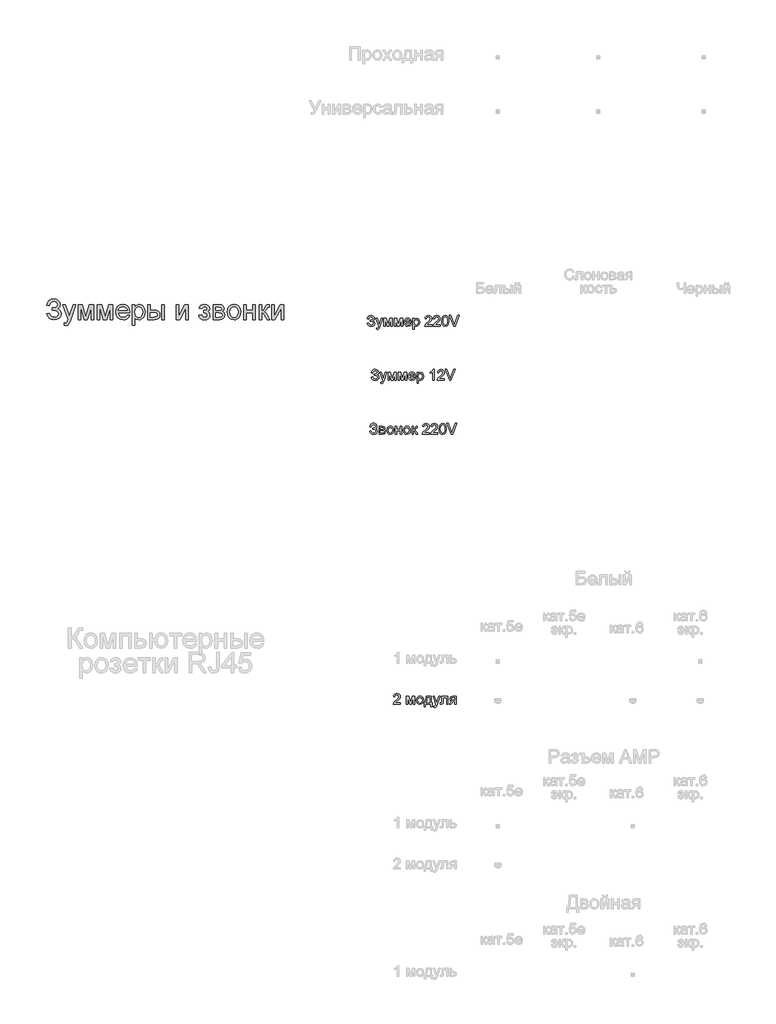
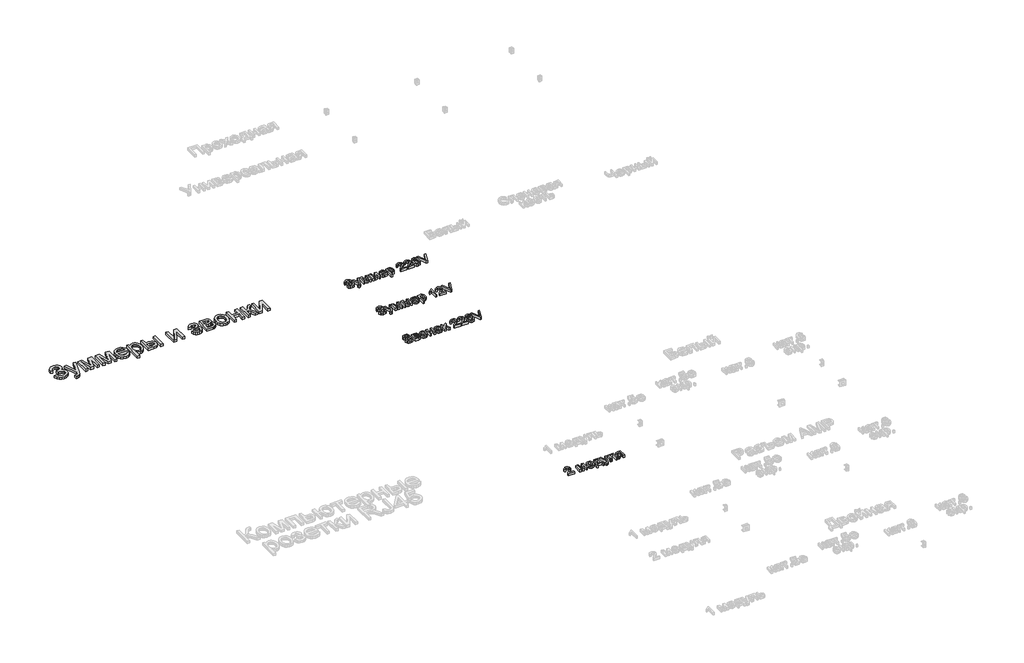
# One storey, part 8 of 47: 5 proxies.
"""IFC4 building model written with IfcOpenShell, lengths in millimetres."""

from ifc_helpers import new_model, si_unit, origin, origin_with_axes, place, context, project, spatial, polyline, outline, extrude, element, save

model = new_model("IFC4")

# Units and contexts
model_context = context("Model", 3, world=origin())
ifc_project = project(units=[si_unit("LENGTHUNIT", "METRE", prefix="MILLI")], contexts=[model_context])

# Site, building, storey
site = spatial("IfcSite", under=ifc_project)
building = spatial("IfcBuilding", under=site)
storey = spatial("IfcBuildingStorey", under=building, Name="Этаж 01", Elevation=0.0)

# Proxies
placement = place(None, origin())
element("IfcBuildingElementProxy", 1, Name="150 мм Arial", ObjectType="150 мм Arial", at=placement, inside=storey, context=model_context, shape_type="SweptSolid", body=[
    extrude(outline(polyline([(-3338.7514384, -17742.1540132), (-3319.9158802, -17737.4451237), (-3308.3459915, -17757.8441803), (-3297.4152977, -17765.5007243), (-3283.4219863, -17768.0529057), (-3269.2447339, -17766.1353208), (-3258.4244047, -17760.3825661), (-3251.5680041, -17751.9166817), (-3249.2825372, -17741.8597076), (-3251.7795362, -17731.324487), (-3259.2705333, -17723.1896964), (-3271.0657498, -17717.9887647), (-3286.4754069, -17716.2551208), (-3296.3714325, -17716.2551208), (-3296.3714325, -17697.4195626), (-3275.0526709, -17695.8928523), (-3262.0112542, -17688.093754), (-3256.3458715, -17673.8383267), (-3258.2312667, -17664.9677721), (-3263.8874524, -17657.3388192), (-3272.7626055, -17652.0827052), (-3284.3049031, -17650.3306672), (-3303.5267374, -17655.7201385), (-3314.526409, -17670.012354), (-3317.5614355, -17683.292894), (-3336.3969936, -17678.5840045), (-3330.5453706, -17657.9826127), (-3319.9434714, -17643.2673329), (-3304.5912959, -17634.438165), (-3284.4888441, -17631.4951091), (-3265.0968644, -17634.5531282), (-3250.1838481, -17643.7271854), (-3240.678697, -17656.9939299), (-3237.5103133, -17672.3300105), (-3242.4399321, -17690.9724306), (-3257.2287883, -17704.8875671), (-3246.7533484, -17709.7114198), (-3238.1357127, -17717.8554074), (-3232.3691624, -17728.6205543), (-3230.446979, -17741.3078846), (-3234.134996, -17759.1455629), (-3245.199047, -17773.8102589), (-3262.351545, -17783.6189126), (-3284.3049031, -17786.8884638), (-3303.4071757, -17784.0925607), (-3318.8490225, -17775.7048512), (-3330.6304433, -17761.7253354), (-3338.7514384, -17742.1540132)])), origin_with_axes(), (0.0, 0.0, 1.0), 20.0),
    extrude(outline(polyline([(-3206.9025313, -17826.9140249), (-3209.2569761, -17808.7774426), (-3199.6920442, -17810.4329115), (-3190.7525117, -17808.3543783), (-3185.27107, -17802.5602368), (-3180.1207221, -17788.6910856), (-3178.6491941, -17784.1293489), (-3218.6747552, -17673.8751149), (-3198.8091274, -17673.8751149), (-3177.5823363, -17735.3114081), (-3170.1879082, -17759.8859254), (-3162.7934801, -17738.1808877), (-3140.9780778, -17673.8751149), (-3121.2596028, -17673.8751149), (-3159.7768477, -17787.1827694), (-3169.783238, -17811.7572867), (-3180.7093333, -17825.0378267), (-3195.3878249, -17829.2684697), (-3206.9025313, -17826.9140249)])), origin_with_axes(), (0.0, 0.0, 1.0), 20.0),
    extrude(outline(polyline([(-3105.6614062, -17673.8751149), (-3073.2510025, -17673.8751149), (-3048.271815, -17762.4610994), (-3021.342853, -17673.8751149), (-2990.2936126, -17673.8751149), (-2990.2936126, -17784.5340191), (-3009.1291707, -17784.5340191), (-3009.1291707, -17695.4329998), (-3036.2052856, -17784.5340191), (-3060.9269556, -17784.5340191), (-3086.8258481, -17691.1655687), (-3086.8258481, -17784.5340191), (-3105.6614062, -17784.5340191), (-3105.6614062, -17673.8751149)])), origin_with_axes(), (0.0, 0.0, 1.0), 20.0),
    extrude(outline(polyline([(-2962.0402753, -17673.8751149), (-2929.6298716, -17673.8751149), (-2904.6506841, -17762.4610994), (-2877.721722, -17673.8751149), (-2846.6724816, -17673.8751149), (-2846.6724816, -17784.5340191), (-2865.5080398, -17784.5340191), (-2865.5080398, -17695.4329998), (-2892.5841546, -17784.5340191), (-2917.3058247, -17784.5340191), (-2943.2047172, -17691.1655687), (-2943.2047172, -17784.5340191), (-2962.0402753, -17784.5340191), (-2962.0402753, -17673.8751149)])), origin_with_axes(), (0.0, 0.0, 1.0), 20.0),
    extrude(outline(polyline([(-2740.9431962, -17751.5717923), (-2722.4755201, -17753.9262371), (-2729.1295857, -17767.8413735), (-2739.7475797, -17778.243237), (-2754.090379, -17784.7271571), (-2771.9188602, -17786.8884638), (-2794.0193711, -17783.1590601), (-2811.0247163, -17771.9708489), (-2821.8680381, -17754.0503972), (-2825.4824787, -17730.124272), (-2821.8312499, -17705.3934049), (-2810.8775635, -17686.8981375), (-2794.1021445, -17675.365037), (-2772.985718, -17671.5206701), (-2752.5268806, -17675.3558399), (-2736.1791244, -17686.8613493), (-2725.4599628, -17705.3198285), (-2721.8869089, -17730.0139074), (-2721.9972735, -17735.0906789), (-2806.6469206, -17735.0906789), (-2803.3865664, -17749.1897564), (-2795.8127958, -17759.5548316), (-2784.882102, -17765.9283872), (-2771.5509782, -17768.0529057), (-2753.0833021, -17764.1165683), (-2740.9431962, -17751.5717923)]), holes=[polyline([(-2806.6469206, -17716.2551208), (-2740.722467, -17716.2551208), (-2743.2700498, -17706.3039128), (-2748.2640479, -17699.1853962), (-2759.2453255, -17692.5635203), (-2773.0592944, -17690.3562283), (-2785.7558218, -17692.1174634), (-2796.2542542, -17697.4011685), (-2803.5521133, -17705.6371267), (-2806.6469206, -17716.2551208)])]), origin_with_axes(), (0.0, 0.0, 1.0), 20.0),
    extrude(outline(polyline([(-2703.0513507, -17826.9140249), (-2703.0513507, -17673.8751149), (-2684.2157926, -17673.8751149), (-2684.2157926, -17692.3427911), (-2671.1927699, -17676.7262004), (-2653.6080106, -17671.5206701), (-2640.8700965, -17673.341686), (-2629.7324691, -17678.8047337), (-2620.6641779, -17687.5787192), (-2614.1342725, -17699.332549), (-2608.87356, -17728.3584384), (-2610.3588835, -17744.4670713), (-2614.8148542, -17758.8742499), (-2622.0989177, -17770.8488088), (-2632.0685198, -17779.6595826), (-2643.6797952, -17785.0812435), (-2655.8888789, -17786.8884638), (-2672.2780218, -17782.0508156), (-2684.2157926, -17769.8187393), (-2684.2157926, -17826.9140249), (-2703.0513507, -17826.9140249)]), holes=[polyline([(-2684.2157926, -17730.0874838), (-2682.178646, -17746.9732674), (-2676.0672064, -17758.7822794), (-2667.049499, -17765.7352491), (-2656.2935491, -17768.0529057), (-2645.3628554, -17765.6524757), (-2636.1152217, -17758.4511856), (-2629.810644, -17746.2099122), (-2627.7091181, -17728.6895322), (-2629.7600602, -17711.8957191), (-2635.9128866, -17699.9211602), (-2644.9167984, -17692.7474613), (-2655.5209969, -17690.3562283), (-2666.1665822, -17692.8992126), (-2675.5153834, -17700.5281655), (-2682.0406903, -17713.0039636), (-2684.2157926, -17730.0874838)])]), origin_with_axes(), (0.0, 0.0, 1.0), 20.0),
    extrude(outline(polyline([(-2484.0879872, -17673.8751149), (-2465.252429, -17673.8751149), (-2465.252429, -17784.5340191), (-2484.0879872, -17784.5340191), (-2484.0879872, -17673.8751149)])), origin_with_axes(), (0.0, 0.0, 1.0), 20.0),
    extrude(outline(polyline([(-2587.683557, -17673.8751149), (-2568.8479989, -17673.8751149), (-2568.8479989, -17713.900676), (-2545.5610686, -17713.900676), (-2525.4333249, -17716.2597193), (-2510.5203085, -17723.3368492), (-2501.291069, -17734.5618485), (-2498.2146558, -17749.3645003), (-2500.7944283, -17762.8427769), (-2508.5337458, -17774.2149291), (-2521.938446, -17781.9542466), (-2541.5143666, -17784.5340191), (-2587.683557, -17784.5340191), (-2587.683557, -17673.8751149)]), holes=[polyline([(-2568.8479989, -17765.6984609), (-2549.4974059, -17765.6984609), (-2524.5182185, -17761.7437295), (-2518.9172151, -17756.6807535), (-2517.050214, -17749.4012885), (-2522.586838, -17737.8130057), (-2531.4665896, -17734.005427), (-2547.0325966, -17732.7362341), (-2568.8479989, -17732.7362341), (-2568.8479989, -17765.6984609)])]), origin_with_axes(), (0.0, 0.0, 1.0), 20.0),
    extrude(outline(polyline([(-2378.1379726, -17673.8751149), (-2359.3024144, -17673.8751149), (-2359.3024144, -17758.2672446), (-2313.0228594, -17673.8751149), (-2288.6690714, -17673.8751149), (-2288.6690714, -17784.5340191), (-2307.5046295, -17784.5340191), (-2307.5046295, -17700.6569242), (-2353.4898789, -17784.5340191), (-2378.1379726, -17784.5340191), (-2378.1379726, -17673.8751149)])), origin_with_axes(), (0.0, 0.0, 1.0), 20.0),
    extrude(outline(polyline([(-2175.6557224, -17735.0906789), (-2175.6557224, -17716.2551208), (-2160.7932898, -17715.5193568), (-2153.2884971, -17711.6014135), (-2149.75683, -17703.4160391), (-2154.4841136, -17693.9062896), (-2166.6794018, -17690.3562283), (-2179.2793601, -17693.8878955), (-2187.4279463, -17704.4828969), (-2208.6179492, -17702.1284521), (-2202.9985517, -17688.7375475), (-2194.4544924, -17679.1726156), (-2182.9857712, -17673.4336565), (-2168.5923881, -17671.5206701), (-2152.8470387, -17673.8521223), (-2140.9276621, -17680.8464787), (-2133.4228694, -17691.0781967), (-2130.9212718, -17703.1217335), (-2134.4805301, -17714.820381), (-2145.158305, -17723.8702781), (-2132.7054995, -17735.6057137), (-2128.5668271, -17752.4914973), (-2131.1925848, -17766.35605), (-2139.069858, -17777.3419261), (-2151.6652178, -17784.5018294), (-2168.4452353, -17786.8884638), (-2184.8573708, -17784.6811719), (-2197.4159425, -17778.059296), (-2206.1209502, -17767.0228361), (-2210.972394, -17751.5717923), (-2189.7823911, -17749.2173475), (-2181.284317, -17763.1232869), (-2166.6426136, -17768.0529057), (-2152.8838269, -17763.325622), (-2147.4023852, -17751.2406985), (-2150.8052937, -17741.3446728), (-2158.052569, -17736.0471721), (-2171.9769025, -17734.9803143), (-2175.6557224, -17735.0906789)])), origin_with_axes(), (0.0, 0.0, 1.0), 20.0),
    extrude(outline(polyline([(-2105.0223794, -17673.8751149), (-2063.5252903, -17673.8751149), (-2040.7717889, -17676.3951066), (-2027.9694955, -17685.6289447), (-2022.6168124, -17701.723782), (-2025.854174, -17714.8019869), (-2035.6030469, -17724.1277955), (-2022.9479062, -17734.3365208), (-2017.9079229, -17752.0868271), (-2021.0992992, -17766.443422), (-2028.6868654, -17776.5509798), (-2040.6982125, -17782.5382592), (-2057.1609318, -17784.5340191), (-2105.0223794, -17784.5340191), (-2105.0223794, -17673.8751149)]), holes=[polyline([(-2086.1868212, -17716.2551208), (-2067.5719923, -17716.2551208), (-2052.212919, -17715.2986276), (-2044.7449145, -17711.4726548), (-2041.4523706, -17704.5564733), (-2042.8963074, -17698.9370758), (-2047.2281179, -17695.3226352), (-2066.9833811, -17692.7106731), (-2086.1868212, -17692.7106731), (-2086.1868212, -17716.2551208)]), polyline([(-2086.1868212, -17765.6984609), (-2063.0838319, -17765.6984609), (-2042.5928048, -17762.2955525), (-2038.3529648, -17757.6556408), (-2036.7434811, -17750.5417227), (-2039.9624485, -17741.4734315), (-2048.350158, -17736.1943249), (-2064.9232419, -17735.0906789), (-2086.1868212, -17735.0906789), (-2086.1868212, -17765.6984609)])]), origin_with_axes(), (0.0, 0.0, 1.0), 20.0),
    extrude(outline(polyline([(-1999.0723648, -17729.204567), (-1994.9980717, -17702.5239253), (-1982.7751924, -17683.7711406), (-1967.6736365, -17674.5832878), (-1949.5922364, -17671.5206701), (-1929.8047836, -17675.2500739), (-1913.9996534, -17686.4382851), (-1903.6391767, -17704.2023869), (-1900.1856845, -17727.6594626), (-1901.7123947, -17746.6881588), (-1906.2925256, -17761.1735124), (-1913.7927197, -17772.0214327), (-1924.07962, -17780.1378292), (-1936.2979008, -17785.2008052), (-1949.5922364, -17786.8884638), (-1969.6188125, -17783.1728557), (-1985.4055486, -17772.0260312), (-1995.6556607, -17753.8894489), (-1999.0723648, -17729.204567)]), holes=[polyline([(-1980.2368066, -17729.1677788), (-1978.0571058, -17746.2145107), (-1971.5180033, -17758.3592151), (-1961.6771599, -17765.629483), (-1949.5922364, -17768.0529057), (-1937.5624952, -17765.6156875), (-1927.7400459, -17758.3040328), (-1921.2009434, -17745.9983801), (-1919.0212426, -17728.5791676), (-1921.214739, -17712.0290763), (-1927.7952282, -17700.0499189), (-1937.631473, -17692.7796509), (-1949.5922364, -17690.3562283), (-1961.6771599, -17692.7704539), (-1971.5180033, -17700.0131307), (-1978.0571058, -17712.1302439), (-1980.2368066, -17729.1677788)])]), origin_with_axes(), (0.0, 0.0, 1.0), 20.0),
    extrude(outline(polyline([(-1878.9956815, -17673.8751149), (-1860.1601234, -17673.8751149), (-1860.1601234, -17716.2551208), (-1810.7167832, -17716.2551208), (-1810.7167832, -17673.8751149), (-1791.8812251, -17673.8751149), (-1791.8812251, -17784.5340191), (-1810.7167832, -17784.5340191), (-1810.7167832, -17735.0906789), (-1860.1601234, -17735.0906789), (-1860.1601234, -17784.5340191), (-1878.9956815, -17784.5340191), (-1878.9956815, -17673.8751149)])), origin_with_axes(), (0.0, 0.0, 1.0), 20.0),
    extrude(outline(polyline([(-1763.6278878, -17673.8751149), (-1744.7923297, -17673.8751149), (-1744.7923297, -17720.9640103), (-1732.1739773, -17717.5794959), (-1721.8364932, -17697.861021), (-1713.2464486, -17680.8464787), (-1705.6680795, -17675.3098547), (-1691.8908988, -17673.8751149), (-1688.2856552, -17673.8751149), (-1688.2856552, -17692.8210377), (-1693.3624268, -17692.7106731), (-1702.5594766, -17694.6972358), (-1709.0341998, -17707.0948591), (-1716.630963, -17720.5041578), (-1727.2811467, -17727.0708514), (-1715.3985583, -17734.4009002), (-1703.736699, -17749.8427469), (-1683.5767657, -17784.5340191), (-1704.9874978, -17784.5340191), (-1724.742761, -17750.5785109), (-1734.6755748, -17736.212719), (-1744.7923297, -17732.7362341), (-1744.7923297, -17784.5340191), (-1763.6278878, -17784.5340191), (-1763.6278878, -17673.8751149)])), origin_with_axes(), (0.0, 0.0, 1.0), 20.0),
    extrude(outline(polyline([(-1671.8045418, -17673.8751149), (-1652.9689837, -17673.8751149), (-1652.9689837, -17758.2672446), (-1606.6894287, -17673.8751149), (-1582.3356406, -17673.8751149), (-1582.3356406, -17784.5340191), (-1601.1711988, -17784.5340191), (-1601.1711988, -17700.6569242), (-1647.1564482, -17784.5340191), (-1671.8045418, -17784.5340191), (-1671.8045418, -17673.8751149)])), origin_with_axes(), (0.0, 0.0, 1.0), 20.0),
])
element("IfcBuildingElementProxy", 2, Name="80 мм Arial", ObjectType="80 мм Arial", at=placement, inside=storey, context=model_context, shape_type="SweptSolid", body=[
    extrude(outline(polyline([(-963.7349481, -17811.9901741), (-953.6893171, -17809.4787664), (-947.5187098, -17820.3582632), (-934.225907, -17825.8029168), (-920.8938635, -17821.712069), (-916.0182008, -17811.8332111), (-921.3451321, -17801.8758718), (-935.854398, -17798.1774315), (-941.1322783, -17798.1774315), (-941.1322783, -17788.1318005), (-929.7622721, -17787.317555), (-922.8068499, -17783.1580359), (-919.7853124, -17775.5551413), (-923.8074889, -17766.755404), (-934.696796, -17763.0177229), (-944.9484409, -17765.8921076), (-950.8149325, -17773.5146225), (-952.4336132, -17780.5975772), (-962.4792442, -17778.0861694), (-959.3583787, -17767.0987605), (-953.7040324, -17759.2506113), (-945.5162054, -17754.5417218), (-934.7948978, -17752.9720919), (-924.4525087, -17754.6030354), (-916.4988999, -17759.495866), (-911.429486, -17766.571463), (-909.7396814, -17774.750706), (-912.3688114, -17784.6933301), (-920.2562014, -17792.1147362), (-910.0732278, -17799.0309177), (-905.9725698, -17811.5389055), (-907.9395122, -17821.0523339), (-913.8403394, -17828.8735052), (-922.9883383, -17834.1047871), (-934.696796, -17835.8485478), (-944.8846747, -17834.3573994), (-953.1203263, -17829.8839544), (-959.4037508, -17822.4282126), (-963.7349481, -17811.9901741)])), origin_with_axes(), (0.0, 0.0, 1.0), 20.0),
    extrude(outline(polyline([(-893.415531, -17857.1955137), (-894.6712349, -17847.5226698), (-889.5699379, -17848.4055866), (-884.8021872, -17847.2970355), (-881.8787516, -17844.2068267), (-879.1318994, -17836.8099461), (-878.3470845, -17834.3770198), (-899.6940504, -17775.5747617), (-889.0990489, -17775.5747617), (-877.7780937, -17808.3407847), (-873.8343987, -17821.4471939), (-869.8907037, -17809.8711738), (-858.2558225, -17775.5747617), (-847.7393025, -17775.5747617), (-868.2818331, -17836.0055108), (-873.6185746, -17849.11192), (-879.4458254, -17856.1948747), (-887.2743542, -17858.4512176), (-893.415531, -17857.1955137)])), origin_with_axes(), (0.0, 0.0, 1.0), 20.0),
    extrude(outline(polyline([(-839.4202643, -17775.5747617), (-822.1347156, -17775.5747617), (-808.8124823, -17822.8206201), (-794.4503692, -17775.5747617), (-777.8907743, -17775.5747617), (-777.8907743, -17834.5928439), (-787.9364054, -17834.5928439), (-787.9364054, -17787.0723003), (-802.3769999, -17834.5928439), (-815.5618907, -17834.5928439), (-829.3746333, -17784.796337), (-829.3746333, -17834.5928439), (-839.4202643, -17834.5928439), (-839.4202643, -17775.5747617)])), origin_with_axes(), (0.0, 0.0, 1.0), 20.0),
    extrude(outline(polyline([(-762.8223278, -17775.5747617), (-745.5367791, -17775.5747617), (-732.2145458, -17822.8206201), (-717.8524327, -17775.5747617), (-701.2928379, -17775.5747617), (-701.2928379, -17834.5928439), (-711.3384689, -17834.5928439), (-711.3384689, -17787.0723003), (-725.7790635, -17834.5928439), (-738.9639542, -17834.5928439), (-752.7766968, -17784.796337), (-752.7766968, -17834.5928439), (-762.8223278, -17834.5928439), (-762.8223278, -17775.5747617)])), origin_with_axes(), (0.0, 0.0, 1.0), 20.0),
    extrude(outline(polyline([(-644.9038856, -17817.0129896), (-635.0544584, -17818.2686935), (-644.2662235, -17831.2377601), (-661.4242398, -17835.8485478), (-673.2111789, -17833.8595325), (-682.2806963, -17827.8924865), (-688.0638013, -17818.3349123), (-689.991503, -17805.5743121), (-688.0441809, -17792.3845163), (-682.2022149, -17782.5203738), (-673.2553247, -17776.3693868), (-661.9932306, -17774.3190578), (-651.0818506, -17776.3644817), (-642.3630473, -17782.5007534), (-636.6461611, -17792.3452756), (-634.7405324, -17805.515451), (-634.7993935, -17808.2230625), (-679.9458719, -17808.2230625), (-674.1676721, -17821.2706106), (-661.228036, -17825.8029168), (-651.3786088, -17823.7035369), (-644.9038856, -17817.0129896)]), holes=[polyline([(-679.9458719, -17798.1774315), (-644.7861634, -17798.1774315), (-648.8083399, -17789.0735784), (-662.0324713, -17784.3646888), (-674.4031166, -17788.1219903), (-679.9458719, -17798.1774315)])]), origin_with_axes(), (0.0, 0.0, 1.0), 20.0),
    extrude(outline(polyline([(-624.6949014, -17857.1955137), (-624.6949014, -17775.5747617), (-614.6492704, -17775.5747617), (-614.6492704, -17785.424189), (-607.7036583, -17777.0953406), (-598.32512, -17774.3190578), (-585.5914978, -17778.2038917), (-577.2724596, -17789.1520599), (-574.4667463, -17804.6325342), (-577.6354365, -17820.9076337), (-586.8373915, -17831.9931445), (-599.5415831, -17835.8485478), (-608.2824593, -17833.2684687), (-614.6492704, -17826.7446947), (-614.6492704, -17857.1955137), (-624.6949014, -17857.1955137)]), holes=[polyline([(-614.6492704, -17805.5546918), (-610.3033577, -17820.8585828), (-599.7574072, -17825.8029168), (-588.9956326, -17820.6819994), (-584.5123773, -17804.8091176), (-588.8877205, -17789.4659858), (-599.3453794, -17784.3646888), (-610.0090521, -17789.789722), (-614.6492704, -17805.5546918)])]), origin_with_axes(), (0.0, 0.0, 1.0), 20.0),
    extrude(outline(polyline([(-482.8003633, -17824.5472129), (-482.8003633, -17834.5928439), (-535.5399261, -17834.5928439), (-534.4608056, -17827.6668522), (-528.3588696, -17817.0031794), (-515.7822104, -17805.358488), (-498.4378006, -17788.6223098), (-494.1016982, -17777.2424934), (-498.192546, -17768.0307282), (-508.8758391, -17764.2734268), (-520.0104008, -17767.9424366), (-524.2385912, -17778.0861694), (-534.2842222, -17776.8304656), (-531.8488434, -17767.1134758), (-526.5832258, -17760.0158058), (-518.7620546, -17755.6747983), (-508.660015, -17754.2277958), (-498.484399, -17755.8366664), (-490.6779431, -17760.6632782), (-485.7115361, -17767.8737653), (-484.0560672, -17776.6342618), (-485.8415211, -17786.159953), (-491.776684, -17796.0093803), (-506.1682276, -17809.773072), (-517.7246274, -17819.4361057), (-522.2569335, -17824.5472129), (-482.8003633, -17824.5472129)])), origin_with_axes(), (0.0, 0.0, 1.0), 20.0),
    extrude(outline(polyline([(-421.2708733, -17824.5472129), (-421.2708733, -17834.5928439), (-474.0104361, -17834.5928439), (-472.9313156, -17827.6668522), (-466.8293796, -17817.0031794), (-454.2527205, -17805.358488), (-436.9083107, -17788.6223098), (-432.5722082, -17777.2424934), (-436.663056, -17768.0307282), (-447.3463491, -17764.2734268), (-458.4809109, -17767.9424366), (-462.7091013, -17778.0861694), (-472.7547323, -17776.8304656), (-470.3193535, -17767.1134758), (-465.0537358, -17760.0158058), (-457.2325646, -17755.6747983), (-447.130525, -17754.2277958), (-436.954909, -17755.8366664), (-429.1484531, -17760.6632782), (-424.1820462, -17767.8737653), (-422.5265772, -17776.6342618), (-424.3120311, -17786.159953), (-430.247194, -17796.0093803), (-444.6387376, -17809.773072), (-456.1951374, -17819.4361057), (-460.7274436, -17824.5472129), (-421.2708733, -17824.5472129)])), origin_with_axes(), (0.0, 0.0, 1.0), 20.0),
    extrude(outline(polyline([(-411.2252423, -17795.0577922), (-408.2723762, -17771.9351825), (-399.5020694, -17758.603139), (-384.8554609, -17754.2277958), (-373.1224778, -17756.817685), (-365.0192637, -17764.283237), (-360.3103742, -17776.1731831), (-358.4856795, -17795.0577922), (-361.4091151, -17818.0823), (-370.1499913, -17831.443774), (-384.8554609, -17835.8485478), (-395.2934994, -17833.9355614), (-403.2201301, -17828.1966023), (-409.2239642, -17814.6045888), (-411.2252423, -17795.0577922)]), holes=[polyline([(-401.1796113, -17795.0381718), (-400.0023889, -17810.8399298), (-396.4707217, -17819.9854762), (-384.8554609, -17825.8029168), (-373.2402, -17819.9658558), (-369.7085329, -17810.8154043), (-368.5313105, -17795.0381718), (-369.6692921, -17779.5920331), (-373.083237, -17770.3753628), (-378.3316868, -17765.7989108), (-384.9731831, -17764.2734268), (-396.3137588, -17769.649409), (-399.9631482, -17779.4399752), (-401.1796113, -17795.0381718)])]), origin_with_axes(), (0.0, 0.0, 1.0), 20.0),
    extrude(outline(polyline([(-322.1879893, -17834.5928439), (-354.1691974, -17754.2277958), (-343.4172329, -17754.2277958), (-322.0114059, -17812.1275167), (-317.6753035, -17825.1750648), (-313.3980621, -17812.1275167), (-291.933374, -17754.2277958), (-281.1814096, -17754.2277958), (-311.8088119, -17834.5928439), (-322.1879893, -17834.5928439)])), origin_with_axes(), (0.0, 0.0, 1.0), 20.0),
])
element("IfcBuildingElementProxy", 3, Name="80 мм Arial", ObjectType="80 мм Arial", at=placement, inside=storey, context=model_context, shape_type="SweptSolid", body=[
    extrude(outline(polyline([(-932.9702031, -18211.9901741), (-922.9245721, -18209.4787664), (-916.7539648, -18220.3582632), (-903.461162, -18225.8029168), (-890.1291185, -18221.712069), (-885.2534558, -18211.8332111), (-890.5803871, -18201.8758718), (-905.089653, -18198.1774315), (-910.3675334, -18198.1774315), (-910.3675334, -18188.1318005), (-898.9975272, -18187.317555), (-892.0421049, -18183.1580359), (-889.0205674, -18175.5551413), (-893.0427439, -18166.755404), (-903.932051, -18163.0177229), (-914.1836959, -18165.8921076), (-920.0501875, -18173.5146225), (-921.6688682, -18180.5975772), (-931.7144993, -18178.0861694), (-928.5936337, -18167.0987605), (-922.9392874, -18159.2506113), (-914.7514605, -18154.5417218), (-904.0301529, -18152.9720919), (-893.6877637, -18154.6030354), (-885.734155, -18159.495866), (-880.6647411, -18166.571463), (-878.9749364, -18174.750706), (-881.6040664, -18184.6933301), (-889.4914564, -18192.1147362), (-879.3084828, -18199.0309177), (-875.2078248, -18211.5389055), (-877.1747672, -18221.0523339), (-883.0755944, -18228.8735052), (-892.2235934, -18234.1047871), (-903.932051, -18235.8485478), (-914.1199297, -18234.3573994), (-922.3555813, -18229.8839544), (-928.6390058, -18222.4282126), (-932.9702031, -18211.9901741)])), origin_with_axes(), (0.0, 0.0, 1.0), 20.0),
    extrude(outline(polyline([(-862.650786, -18257.1955137), (-863.9064899, -18247.5226698), (-858.8051929, -18248.4055866), (-854.0374423, -18247.2970355), (-851.1140067, -18244.2068267), (-848.3671544, -18236.8099461), (-847.5823395, -18234.3770198), (-868.9293054, -18175.5747617), (-858.334304, -18175.5747617), (-847.0133487, -18208.3407847), (-843.0696537, -18221.4471939), (-839.1259587, -18209.8711738), (-827.4910775, -18175.5747617), (-816.9745575, -18175.5747617), (-837.5170881, -18236.0055108), (-842.8538296, -18249.11192), (-848.6810804, -18256.1948747), (-856.5096093, -18258.4512176), (-862.650786, -18257.1955137)])), origin_with_axes(), (0.0, 0.0, 1.0), 20.0),
    extrude(outline(polyline([(-808.6555193, -18175.5747617), (-791.3699706, -18175.5747617), (-778.0477373, -18222.8206201), (-763.6856242, -18175.5747617), (-747.1260294, -18175.5747617), (-747.1260294, -18234.5928439), (-757.1716604, -18234.5928439), (-757.1716604, -18187.0723003), (-771.612255, -18234.5928439), (-784.7971457, -18234.5928439), (-798.6098883, -18184.796337), (-798.6098883, -18234.5928439), (-808.6555193, -18234.5928439), (-808.6555193, -18175.5747617)])), origin_with_axes(), (0.0, 0.0, 1.0), 20.0),
    extrude(outline(polyline([(-732.0575828, -18175.5747617), (-714.7720342, -18175.5747617), (-701.4498008, -18222.8206201), (-687.0876877, -18175.5747617), (-670.5280929, -18175.5747617), (-670.5280929, -18234.5928439), (-680.5737239, -18234.5928439), (-680.5737239, -18187.0723003), (-695.0143185, -18234.5928439), (-708.1992092, -18234.5928439), (-722.0119518, -18184.796337), (-722.0119518, -18234.5928439), (-732.0575828, -18234.5928439), (-732.0575828, -18175.5747617)])), origin_with_axes(), (0.0, 0.0, 1.0), 20.0),
    extrude(outline(polyline([(-614.1391407, -18217.0129896), (-604.2897134, -18218.2686935), (-613.5014785, -18231.2377601), (-630.6594948, -18235.8485478), (-642.4464339, -18233.8595325), (-651.5159514, -18227.8924865), (-657.2990563, -18218.3349123), (-659.226758, -18205.5743121), (-657.279436, -18192.3845163), (-651.4374699, -18182.5203738), (-642.4905797, -18176.3693868), (-631.2284856, -18174.3190578), (-620.3171056, -18176.3644817), (-611.5983023, -18182.5007534), (-605.8814161, -18192.3452756), (-603.9757874, -18205.515451), (-604.0346485, -18208.2230625), (-649.181127, -18208.2230625), (-643.4029271, -18221.2706106), (-630.4632911, -18225.8029168), (-620.6138638, -18223.7035369), (-614.1391407, -18217.0129896)]), holes=[polyline([(-649.181127, -18198.1774315), (-614.0214184, -18198.1774315), (-618.0435949, -18189.0735784), (-631.2677263, -18184.3646888), (-643.6383716, -18188.1219903), (-649.181127, -18198.1774315)])]), origin_with_axes(), (0.0, 0.0, 1.0), 20.0),
    extrude(outline(polyline([(-593.9301564, -18257.1955137), (-593.9301564, -18175.5747617), (-583.8845254, -18175.5747617), (-583.8845254, -18185.424189), (-576.9389133, -18177.0953406), (-567.560375, -18174.3190578), (-554.8267528, -18178.2038917), (-546.5077147, -18189.1520599), (-543.7020013, -18204.6325342), (-546.8706916, -18220.9076337), (-556.0726465, -18231.9931445), (-568.7768381, -18235.8485478), (-577.5177143, -18233.2684687), (-583.8845254, -18226.7446947), (-583.8845254, -18257.1955137), (-593.9301564, -18257.1955137)]), holes=[polyline([(-583.8845254, -18205.5546918), (-579.5386127, -18220.8585828), (-568.9926622, -18225.8029168), (-558.2308876, -18220.6819994), (-553.7476323, -18204.8091176), (-558.1229755, -18189.4659858), (-568.5806344, -18184.3646888), (-579.2443071, -18189.789722), (-583.8845254, -18205.5546918)])]), origin_with_axes(), (0.0, 0.0, 1.0), 20.0),
    extrude(outline(polyline([(-465.8483609, -18234.5928439), (-475.893992, -18234.5928439), (-475.893992, -18171.964613), (-485.4098729, -18178.7434519), (-495.985254, -18183.8153184), (-495.985254, -18174.3190578), (-481.260164, -18164.9208991), (-472.3230841, -18154.2277958), (-465.8483609, -18154.2277958), (-465.8483609, -18234.5928439)])), origin_with_axes(), (0.0, 0.0, 1.0), 20.0),
    extrude(outline(polyline([(-390.5061283, -18224.5472129), (-390.5061283, -18234.5928439), (-443.2456912, -18234.5928439), (-442.1665706, -18227.6668522), (-436.0646346, -18217.0031794), (-423.4879755, -18205.358488), (-406.1435657, -18188.6223098), (-401.8074632, -18177.2424934), (-405.898311, -18168.0307282), (-416.5816041, -18164.2734268), (-427.7161659, -18167.9424366), (-431.9443563, -18178.0861694), (-441.9899873, -18176.8304656), (-439.5546085, -18167.1134758), (-434.2889908, -18160.0158058), (-426.4678196, -18155.6747983), (-416.36578, -18154.2277958), (-406.1901641, -18155.8366664), (-398.3837081, -18160.6632782), (-393.4173012, -18167.8737653), (-391.7618322, -18176.6342618), (-393.5472862, -18186.159953), (-399.482449, -18196.0093803), (-413.8739927, -18209.773072), (-425.4303924, -18219.4361057), (-429.9626986, -18224.5472129), (-390.5061283, -18224.5472129)])), origin_with_axes(), (0.0, 0.0, 1.0), 20.0),
    extrude(outline(polyline([(-352.9527343, -18234.5928439), (-384.9339424, -18154.2277958), (-374.1819779, -18154.2277958), (-352.7761509, -18212.1275167), (-348.4400485, -18225.1750648), (-344.1628071, -18212.1275167), (-322.698119, -18154.2277958), (-311.9461545, -18154.2277958), (-342.5735569, -18234.5928439), (-352.9527343, -18234.5928439)])), origin_with_axes(), (0.0, 0.0, 1.0), 20.0),
])
element("IfcBuildingElementProxy", 4, Name="80 мм Arial", ObjectType="80 мм Arial", at=placement, inside=storey, context=model_context, shape_type="SweptSolid", body=[
    extrude(outline(polyline([(-944.89939, -18611.9901741), (-934.853759, -18609.4787664), (-928.6831516, -18620.3582632), (-915.3903489, -18625.8029168), (-902.0583054, -18621.712069), (-897.1826426, -18611.8332111), (-902.5095739, -18601.8758718), (-917.0188398, -18598.1774315), (-922.2967202, -18598.1774315), (-922.2967202, -18588.1318005), (-910.926714, -18587.317555), (-903.9712917, -18583.1580359), (-900.9497543, -18575.5551413), (-904.9719308, -18566.755404), (-915.8612378, -18563.0177229), (-926.1128827, -18565.8921076), (-931.9793743, -18573.5146225), (-933.5980551, -18580.5975772), (-943.6436861, -18578.0861694), (-940.5228205, -18567.0987605), (-934.8684742, -18559.2506113), (-926.6806473, -18554.5417218), (-915.9593397, -18552.9720919), (-905.6169505, -18554.6030354), (-897.6633418, -18559.495866), (-892.5939279, -18566.571463), (-890.9041233, -18574.750706), (-893.5332533, -18584.6933301), (-901.4206432, -18592.1147362), (-891.2376696, -18599.0309177), (-887.1370116, -18611.5389055), (-889.103954, -18621.0523339), (-895.0047812, -18628.8735052), (-904.1527802, -18634.1047871), (-915.8612378, -18635.8485478), (-926.0491165, -18634.3573994), (-934.2847681, -18629.8839544), (-940.5681926, -18622.4282126), (-944.89939, -18611.9901741)])), origin_with_axes(), (0.0, 0.0, 1.0), 20.0),
    extrude(outline(polyline([(-874.5799729, -18575.5747617), (-852.448192, -18575.5747617), (-840.3129913, -18576.9187573), (-833.4851015, -18581.8434709), (-830.6303372, -18590.4273841), (-832.35693, -18597.4024267), (-837.5563289, -18602.3761913), (-830.8069205, -18607.8208448), (-828.1189294, -18617.2876749), (-833.8676987, -18630.335223), (-849.0538675, -18634.5928439), (-874.5799729, -18634.5928439), (-874.5799729, -18575.5747617)]), holes=[polyline([(-864.5343418, -18598.1774315), (-854.6064331, -18598.1774315), (-846.4149273, -18597.6673018), (-842.4319916, -18595.626783), (-840.6759682, -18591.9381528), (-843.7563668, -18587.0134392), (-854.2925071, -18585.6203927), (-864.5343418, -18585.6203927), (-864.5343418, -18598.1774315)]), polyline([(-864.5343418, -18624.5472129), (-852.2127476, -18624.5472129), (-841.2841998, -18622.7323284), (-838.1645604, -18616.4636192), (-839.8813431, -18611.6271972), (-844.3547881, -18608.8116737), (-853.1937662, -18608.2230625), (-864.5343418, -18608.2230625), (-864.5343418, -18624.5472129)])]), origin_with_axes(), (0.0, 0.0, 1.0), 20.0),
    extrude(outline(polyline([(-818.0732984, -18605.0838028), (-815.9003421, -18590.8541272), (-809.3814731, -18580.8526421), (-801.32731, -18575.9524539), (-791.6838966, -18574.3190578), (-781.1305884, -18576.3080731), (-772.7011857, -18582.2751191), (-767.1755981, -18591.7493067), (-765.3337356, -18604.2597471), (-768.5907175, -18622.133907), (-778.0771679, -18632.2482093), (-791.6838966, -18635.8485478), (-802.3647372, -18633.8668901), (-810.7843298, -18627.9219171), (-816.2510563, -18618.2490731), (-818.0732984, -18605.0838028)]), holes=[polyline([(-808.0276674, -18605.0641824), (-803.377639, -18620.6329485), (-791.6838966, -18625.8029168), (-780.029395, -18620.6035179), (-775.3793666, -18604.7502565), (-780.0588256, -18589.5346571), (-791.6838966, -18584.3646888), (-803.377639, -18589.5150368), (-808.0276674, -18605.0641824)])]), origin_with_axes(), (0.0, 0.0, 1.0), 20.0),
    extrude(outline(polyline([(-754.0324007, -18575.5747617), (-743.9867697, -18575.5747617), (-743.9867697, -18598.1774315), (-717.6169883, -18598.1774315), (-717.6169883, -18575.5747617), (-707.5713572, -18575.5747617), (-707.5713572, -18634.5928439), (-717.6169883, -18634.5928439), (-717.6169883, -18608.2230625), (-743.9867697, -18608.2230625), (-743.9867697, -18634.5928439), (-754.0324007, -18634.5928439), (-754.0324007, -18575.5747617)])), origin_with_axes(), (0.0, 0.0, 1.0), 20.0),
    extrude(outline(polyline([(-695.0143185, -18605.0838028), (-692.8413622, -18590.8541272), (-686.3224932, -18580.8526421), (-678.2683301, -18575.9524539), (-668.6249167, -18574.3190578), (-658.0716085, -18576.3080731), (-649.6422057, -18582.2751191), (-644.1166182, -18591.7493067), (-642.2747556, -18604.2597471), (-645.5317376, -18622.133907), (-655.018188, -18632.2482093), (-668.6249167, -18635.8485478), (-679.3057573, -18633.8668901), (-687.7253499, -18627.9219171), (-693.1920763, -18618.2490731), (-695.0143185, -18605.0838028)]), holes=[polyline([(-684.9686875, -18605.0641824), (-680.318659, -18620.6329485), (-668.6249167, -18625.8029168), (-656.9704151, -18620.6035179), (-652.3203867, -18604.7502565), (-656.9998456, -18589.5346571), (-668.6249167, -18584.3646888), (-680.318659, -18589.5150368), (-684.9686875, -18605.0641824)])]), origin_with_axes(), (0.0, 0.0, 1.0), 20.0),
    extrude(outline(polyline([(-630.9734208, -18575.5747617), (-620.9277897, -18575.5747617), (-620.9277897, -18600.6888392), (-614.1980018, -18598.8837649), (-608.6846769, -18588.3672449), (-604.1033198, -18579.2928224), (-600.061523, -18576.3399562), (-592.7136933, -18575.5747617), (-590.7908967, -18575.5747617), (-590.7908967, -18585.6792538), (-593.4985082, -18585.6203927), (-598.4036014, -18586.6798929), (-601.8567871, -18593.2919586), (-605.9083941, -18600.4435846), (-611.5884922, -18603.9458212), (-605.2511116, -18607.8551805), (-599.0314534, -18616.0908321), (-588.2794889, -18634.5928439), (-599.6985461, -18634.5928439), (-610.2346864, -18616.4832396), (-615.5321871, -18608.8214839), (-620.9277897, -18606.9673586), (-620.9277897, -18634.5928439), (-630.9734208, -18634.5928439), (-630.9734208, -18575.5747617)])), origin_with_axes(), (0.0, 0.0, 1.0), 20.0),
    extrude(outline(polyline([(-501.6359214, -18624.5472129), (-501.6359214, -18634.5928439), (-554.3754843, -18634.5928439), (-553.2963637, -18627.6668522), (-547.1944277, -18617.0031794), (-534.6177686, -18605.358488), (-517.2733588, -18588.6223098), (-512.9372563, -18577.2424934), (-517.0281041, -18568.0307282), (-527.7113973, -18564.2734268), (-538.845959, -18567.9424366), (-543.0741494, -18578.0861694), (-553.1197804, -18576.8304656), (-550.6844016, -18567.1134758), (-545.418784, -18560.0158058), (-537.5976127, -18555.6747983), (-527.4955731, -18554.2277958), (-517.3199572, -18555.8366664), (-509.5135012, -18560.6632782), (-504.5470943, -18567.8737653), (-502.8916253, -18576.6342618), (-504.6770793, -18586.159953), (-510.6122421, -18596.0093803), (-525.0037858, -18609.773072), (-536.5601855, -18619.4361057), (-541.0924917, -18624.5472129), (-501.6359214, -18624.5472129)])), origin_with_axes(), (0.0, 0.0, 1.0), 20.0),
    extrude(outline(polyline([(-440.1064315, -18624.5472129), (-440.1064315, -18634.5928439), (-492.8459943, -18634.5928439), (-491.7668738, -18627.6668522), (-485.6649377, -18617.0031794), (-473.0882786, -18605.358488), (-455.7438688, -18588.6223098), (-451.4077664, -18577.2424934), (-455.4986141, -18568.0307282), (-466.1819073, -18564.2734268), (-477.316469, -18567.9424366), (-481.5446594, -18578.0861694), (-491.5902904, -18576.8304656), (-489.1549116, -18567.1134758), (-483.889294, -18560.0158058), (-476.0681228, -18555.6747983), (-465.9660832, -18554.2277958), (-455.7904672, -18555.8366664), (-447.9840113, -18560.6632782), (-443.0176043, -18567.8737653), (-441.3621353, -18576.6342618), (-443.1475893, -18586.159953), (-449.0827521, -18596.0093803), (-463.4742958, -18609.773072), (-475.0306955, -18619.4361057), (-479.5630017, -18624.5472129), (-440.1064315, -18624.5472129)])), origin_with_axes(), (0.0, 0.0, 1.0), 20.0),
    extrude(outline(polyline([(-430.0608005, -18595.0577922), (-427.1079343, -18571.9351825), (-418.3376275, -18558.603139), (-403.691019, -18554.2277958), (-391.9580359, -18556.817685), (-383.8548219, -18564.283237), (-379.1459323, -18576.1731831), (-377.3212376, -18595.0577922), (-380.2446732, -18618.0823), (-388.9855494, -18631.443774), (-403.691019, -18635.8485478), (-414.1290575, -18633.9355614), (-422.0556882, -18628.1966023), (-428.0595224, -18614.6045888), (-430.0608005, -18595.0577922)]), holes=[polyline([(-420.0151694, -18595.0381718), (-418.8379471, -18610.8399298), (-415.3062799, -18619.9854762), (-403.691019, -18625.8029168), (-392.0757582, -18619.9658558), (-388.544091, -18610.8154043), (-387.3668686, -18595.0381718), (-388.5048503, -18579.5920331), (-391.9187952, -18570.3753628), (-397.167245, -18565.7989108), (-403.8087413, -18564.2734268), (-415.1493169, -18569.649409), (-418.7987063, -18579.4399752), (-420.0151694, -18595.0381718)])]), origin_with_axes(), (0.0, 0.0, 1.0), 20.0),
    extrude(outline(polyline([(-341.0235474, -18634.5928439), (-373.0047555, -18554.2277958), (-362.2527911, -18554.2277958), (-340.8469641, -18612.1275167), (-336.5108616, -18625.1750648), (-332.2336203, -18612.1275167), (-310.7689321, -18554.2277958), (-300.0169677, -18554.2277958), (-330.6443701, -18634.5928439), (-341.0235474, -18634.5928439)])), origin_with_axes(), (0.0, 0.0, 1.0), 20.0),
])
element("IfcBuildingElementProxy", 5, Name="80 мм Arial", ObjectType="80 мм Arial", at=placement, inside=storey, context=model_context, shape_type="SweptSolid", body=[
    extrude(outline(polyline([(-716.3866477, -20625.1206602), (-716.3866477, -20635.1662912), (-769.1262105, -20635.1662912), (-768.04709, -20628.2402995), (-761.945154, -20617.5766267), (-749.3684948, -20605.9319353), (-732.024085, -20589.1957571), (-727.6879826, -20577.8159407), (-731.7788304, -20568.6041755), (-742.4621235, -20564.8468741), (-753.5966852, -20568.5158838), (-757.8248756, -20578.6596167), (-767.8705066, -20577.4039128), (-765.4351278, -20567.6869231), (-760.1695102, -20560.5892531), (-752.348339, -20556.2482456), (-742.2462994, -20554.801243), (-732.0706834, -20556.4101136), (-724.2642275, -20561.2367254), (-719.2978206, -20568.4472125), (-717.6423516, -20577.2077091), (-719.4278055, -20586.7334002), (-725.3629684, -20596.5828275), (-739.754512, -20610.3465192), (-751.3109118, -20620.009553), (-755.843218, -20625.1206602), (-716.3866477, -20625.1206602)])), origin_with_axes(), (0.0, 0.0, 1.0), 20.0),
    extrude(outline(polyline([(-672.437012, -20576.148209), (-655.1514633, -20576.148209), (-641.82923, -20623.3940673), (-627.4671169, -20576.148209), (-610.907522, -20576.148209), (-610.907522, -20635.1662912), (-620.9531531, -20635.1662912), (-620.9531531, -20587.6457476), (-635.3937476, -20635.1662912), (-648.5786383, -20635.1662912), (-662.391381, -20585.3697843), (-662.391381, -20635.1662912), (-672.437012, -20635.1662912), (-672.437012, -20576.148209)])), origin_with_axes(), (0.0, 0.0, 1.0), 20.0),
    extrude(outline(polyline([(-598.3504833, -20605.6572501), (-596.177527, -20591.4275745), (-589.658658, -20581.4260893), (-581.6044948, -20576.5259011), (-571.9610815, -20574.8925051), (-561.4077733, -20576.8815204), (-552.9783705, -20582.8485664), (-547.452783, -20592.322754), (-545.6109204, -20604.8331944), (-548.8679024, -20622.7073543), (-558.3543528, -20632.8216566), (-571.9610815, -20636.421995), (-582.6419221, -20634.4403374), (-591.0615147, -20628.4953643), (-596.5282411, -20618.8225204), (-598.3504833, -20605.6572501)]), holes=[polyline([(-588.3048523, -20605.6376297), (-583.6548238, -20621.2063957), (-571.9610815, -20626.376364), (-560.3065799, -20621.1769652), (-555.6565515, -20605.3237037), (-560.3360104, -20590.1081044), (-571.9610815, -20584.9381361), (-583.6548238, -20590.088484), (-588.3048523, -20605.6376297)])]), origin_with_axes(), (0.0, 0.0, 1.0), 20.0),
    extrude(outline(polyline([(-525.5196584, -20576.148209), (-487.8485421, -20576.148209), (-487.8485421, -20625.1206602), (-480.3143188, -20625.1206602), (-480.3143188, -20651.4904416), (-490.3599499, -20651.4904416), (-490.3599499, -20635.1662912), (-531.7981778, -20635.1662912), (-531.7981778, -20651.4904416), (-541.8438088, -20651.4904416), (-541.8438088, -20625.1206602), (-535.5652894, -20625.1206602), (-527.8054319, -20605.9613658), (-525.5196584, -20576.148209)]), holes=[polyline([(-516.7297313, -20586.19384), (-519.084176, -20609.0810052), (-524.2639545, -20625.1206602), (-497.8941731, -20625.1206602), (-497.8941731, -20586.19384), (-516.7297313, -20586.19384)])]), origin_with_axes(), (0.0, 0.0, 1.0), 20.0),
    extrude(outline(polyline([(-469.012984, -20657.768961), (-470.2686878, -20648.096117), (-465.1673908, -20648.9790338), (-460.3996402, -20647.8704827), (-457.4762046, -20644.780274), (-454.7293524, -20637.3833933), (-453.9445374, -20634.9504671), (-475.2915033, -20576.148209), (-464.6965019, -20576.148209), (-453.3755466, -20608.914232), (-449.4318516, -20622.0206412), (-445.4881566, -20610.4446211), (-433.8532754, -20576.148209), (-423.3367554, -20576.148209), (-443.879286, -20636.578958), (-449.2160275, -20649.6853672), (-455.0432783, -20656.7683219), (-462.8718072, -20659.0246648), (-469.012984, -20657.768961)])), origin_with_axes(), (0.0, 0.0, 1.0), 20.0),
    extrude(outline(polyline([(-409.9949017, -20576.148209), (-364.7895622, -20576.148209), (-364.7895622, -20635.1074301), (-374.8351932, -20635.1074301), (-374.8351932, -20586.19384), (-399.9492707, -20586.19384), (-399.9492707, -20614.3490753), (-400.6261736, -20627.3377623), (-404.3442343, -20632.8216566), (-413.1341614, -20635.1662912), (-421.2962366, -20634.6561615), (-421.2962366, -20625.1206602), (-416.8031712, -20625.1206602), (-412.2610548, -20624.5026184), (-410.4461703, -20622.5405811), (-409.9949017, -20613.7800845), (-409.9949017, -20576.148209)])), origin_with_axes(), (0.0, 0.0, 1.0), 20.0),
    extrude(outline(polyline([(-304.5157761, -20576.148209), (-304.5157761, -20635.1662912), (-314.5614071, -20635.1662912), (-314.5614071, -20612.5636214), (-320.0354912, -20612.5636214), (-327.491233, -20613.8389456), (-334.4957061, -20622.4130487), (-342.5008184, -20635.1662912), (-354.1160792, -20635.1662912), (-344.0312075, -20619.0383445), (-335.4767248, -20610.6800656), (-347.1704671, -20604.5781295), (-350.9768195, -20593.1983132), (-345.7774207, -20580.8767189), (-330.7285945, -20576.148209), (-304.5157761, -20576.148209)]), holes=[polyline([(-314.5614071, -20586.19384), (-327.8051589, -20586.19384), (-338.5276928, -20588.5188542), (-340.9311885, -20593.9635077), (-337.3897112, -20600.448041), (-324.8424826, -20602.5179904), (-314.5614071, -20602.5179904), (-314.5614071, -20586.19384)])]), origin_with_axes(), (0.0, 0.0, 1.0), 20.0),
])

save(model, "model.ifc")
